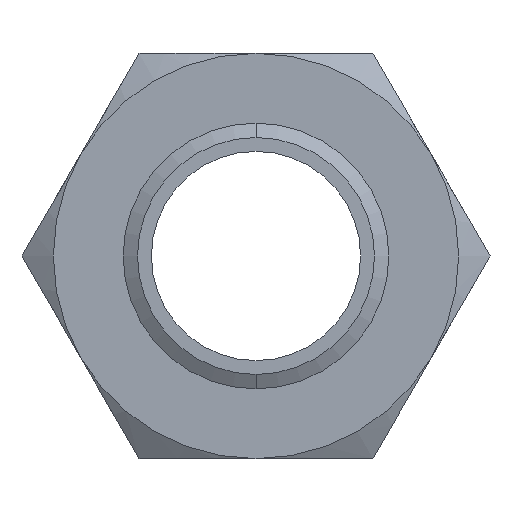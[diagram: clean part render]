
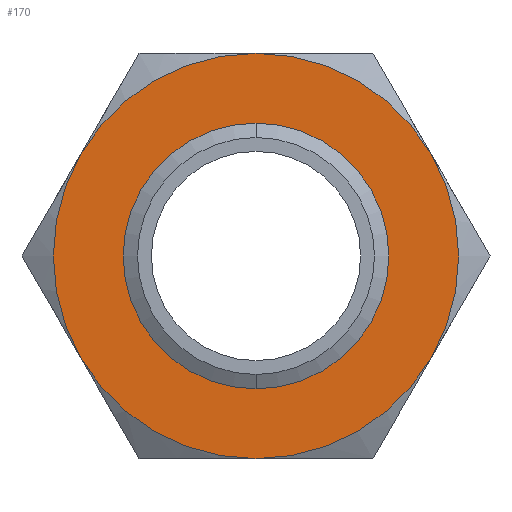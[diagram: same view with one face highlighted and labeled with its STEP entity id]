
A CAD part, front view. The second image highlights one B-rep face of the part: STEP entity #170.
In plain terms, the highlighted planar face has unit normal (0, -1, 0).
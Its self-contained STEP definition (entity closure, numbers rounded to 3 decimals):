
#159 = VERTEX_POINT ( 'NONE', #797 ) ;
#162 = ORIENTED_EDGE ( 'NONE', *, *, #167, .F. ) ;
#166 = VERTEX_POINT ( 'NONE', #785 ) ;
#167 = EDGE_CURVE ( 'NONE', #159, #168, #784, .T. ) ;
#168 = VERTEX_POINT ( 'NONE', #779 ) ;
#169 = EDGE_CURVE ( 'NONE', #168, #166, #778, .T. ) ;
#170 = ADVANCED_FACE ( 'NONE', ( #773, #772 ), #771, .F. ) ;
#171 = ORIENTED_EDGE ( 'NONE', *, *, #169, .F. ) ;
#173 = EDGE_LOOP ( 'NONE', ( #171, #162, #205, #201, #189, #184 ) ) ;
#178 = ORIENTED_EDGE ( 'NONE', *, *, #1321, .F. ) ;
#179 = EDGE_LOOP ( 'NONE', ( #178, #214 ) ) ;
#182 = VERTEX_POINT ( 'NONE', #813 ) ;
#183 = VERTEX_POINT ( 'NONE', #812 ) ;
#184 = ORIENTED_EDGE ( 'NONE', *, *, #185, .F. ) ;
#185 = EDGE_CURVE ( 'NONE', #166, #182, #811, .T. ) ;
#189 = ORIENTED_EDGE ( 'NONE', *, *, #190, .F. ) ;
#190 = EDGE_CURVE ( 'NONE', #182, #183, #806, .T. ) ;
#199 = VERTEX_POINT ( 'NONE', #852 ) ;
#200 = EDGE_CURVE ( 'NONE', #183, #199, #848, .T. ) ;
#201 = ORIENTED_EDGE ( 'NONE', *, *, #200, .F. ) ;
#205 = ORIENTED_EDGE ( 'NONE', *, *, #206, .F. ) ;
#206 = EDGE_CURVE ( 'NONE', #199, #159, #840, .T. ) ;
#214 = ORIENTED_EDGE ( 'NONE', *, *, #215, .F. ) ;
#215 = EDGE_CURVE ( 'NONE', #400, #401, #881, .T. ) ;
#400 = VERTEX_POINT ( 'NONE', #1307 ) ;
#401 = VERTEX_POINT ( 'NONE', #1303 ) ;
#767 = DIRECTION ( 'NONE',  ( 0., 0., 1. ) ) ;
#768 = DIRECTION ( 'NONE',  ( 0., 1., 0. ) ) ;
#769 = CARTESIAN_POINT ( 'NONE',  ( 44.745, 0., -77.5 ) ) ;
#770 = AXIS2_PLACEMENT_3D ( 'NONE', #769, #768, #767 ) ;
#771 = PLANE ( 'NONE',  #770 ) ;
#772 = FACE_BOUND ( 'NONE', #179, .T. ) ;
#773 = FACE_OUTER_BOUND ( 'NONE', #173, .T. ) ;
#774 = DIRECTION ( 'NONE',  ( 0., 0., 1. ) ) ;
#775 = DIRECTION ( 'NONE',  ( 0., 1., 0. ) ) ;
#776 = CARTESIAN_POINT ( 'NONE',  ( 0., 0., 0. ) ) ;
#777 = AXIS2_PLACEMENT_3D ( 'NONE', #776, #775, #774 ) ;
#778 = CIRCLE ( 'NONE', #777, 77.5 ) ;
#779 = CARTESIAN_POINT ( 'NONE',  ( 0., 0., 77.5 ) ) ;
#780 = DIRECTION ( 'NONE',  ( 0., 0., 1. ) ) ;
#781 = DIRECTION ( 'NONE',  ( 0., 1., 0. ) ) ;
#782 = CARTESIAN_POINT ( 'NONE',  ( 0., 0., 0. ) ) ;
#783 = AXIS2_PLACEMENT_3D ( 'NONE', #782, #781, #780 ) ;
#784 = CIRCLE ( 'NONE', #783, 77.5 ) ;
#785 = CARTESIAN_POINT ( 'NONE',  ( 67.117, 0., 38.75 ) ) ;
#797 = CARTESIAN_POINT ( 'NONE',  ( -67.117, 0., 38.75 ) ) ;
#802 = DIRECTION ( 'NONE',  ( 0., 0., 1. ) ) ;
#803 = DIRECTION ( 'NONE',  ( 0., 1., 0. ) ) ;
#804 = CARTESIAN_POINT ( 'NONE',  ( 0., 0., 0. ) ) ;
#805 = AXIS2_PLACEMENT_3D ( 'NONE', #804, #803, #802 ) ;
#806 = CIRCLE ( 'NONE', #805, 77.5 ) ;
#807 = DIRECTION ( 'NONE',  ( 0., 0., 1. ) ) ;
#808 = DIRECTION ( 'NONE',  ( 0., 1., 0. ) ) ;
#809 = CARTESIAN_POINT ( 'NONE',  ( 0., 0., 0. ) ) ;
#810 = AXIS2_PLACEMENT_3D ( 'NONE', #809, #808, #807 ) ;
#811 = CIRCLE ( 'NONE', #810, 77.5 ) ;
#812 = CARTESIAN_POINT ( 'NONE',  ( 0., 0., -77.5 ) ) ;
#813 = CARTESIAN_POINT ( 'NONE',  ( 67.117, 0., -38.75 ) ) ;
#836 = DIRECTION ( 'NONE',  ( 0., 0., 1. ) ) ;
#837 = DIRECTION ( 'NONE',  ( 0., 1., 0. ) ) ;
#838 = CARTESIAN_POINT ( 'NONE',  ( 0., 0., 0. ) ) ;
#839 = AXIS2_PLACEMENT_3D ( 'NONE', #838, #837, #836 ) ;
#840 = CIRCLE ( 'NONE', #839, 77.5 ) ;
#844 = DIRECTION ( 'NONE',  ( 0., 0., 1. ) ) ;
#845 = DIRECTION ( 'NONE',  ( 0., 1., 0. ) ) ;
#846 = CARTESIAN_POINT ( 'NONE',  ( 0., 0., 0. ) ) ;
#847 = AXIS2_PLACEMENT_3D ( 'NONE', #846, #845, #844 ) ;
#848 = CIRCLE ( 'NONE', #847, 77.5 ) ;
#852 = CARTESIAN_POINT ( 'NONE',  ( -67.117, 0., -38.75 ) ) ;
#878 = DIRECTION ( 'NONE',  ( 0., 0., -1. ) ) ;
#879 = DIRECTION ( 'NONE',  ( 0., -1., 0. ) ) ;
#880 = AXIS2_PLACEMENT_3D ( 'NONE', #885, #879, #878 ) ;
#881 = CIRCLE ( 'NONE', #880, 45.301 ) ;
#885 = CARTESIAN_POINT ( 'NONE',  ( 0., 0., 0. ) ) ;
#1303 = CARTESIAN_POINT ( 'NONE',  ( 0., 0., -45.301 ) ) ;
#1307 = CARTESIAN_POINT ( 'NONE',  ( 0., 0., 45.301 ) ) ;
#1321 = EDGE_CURVE ( 'NONE', #401, #400, #1571, .T. ) ;
#1567 = DIRECTION ( 'NONE',  ( 0., 0., -1. ) ) ;
#1568 = DIRECTION ( 'NONE',  ( 0., -1., 0. ) ) ;
#1569 = CARTESIAN_POINT ( 'NONE',  ( 0., 0., 0. ) ) ;
#1570 = AXIS2_PLACEMENT_3D ( 'NONE', #1569, #1568, #1567 ) ;
#1571 = CIRCLE ( 'NONE', #1570, 45.301 ) ;
